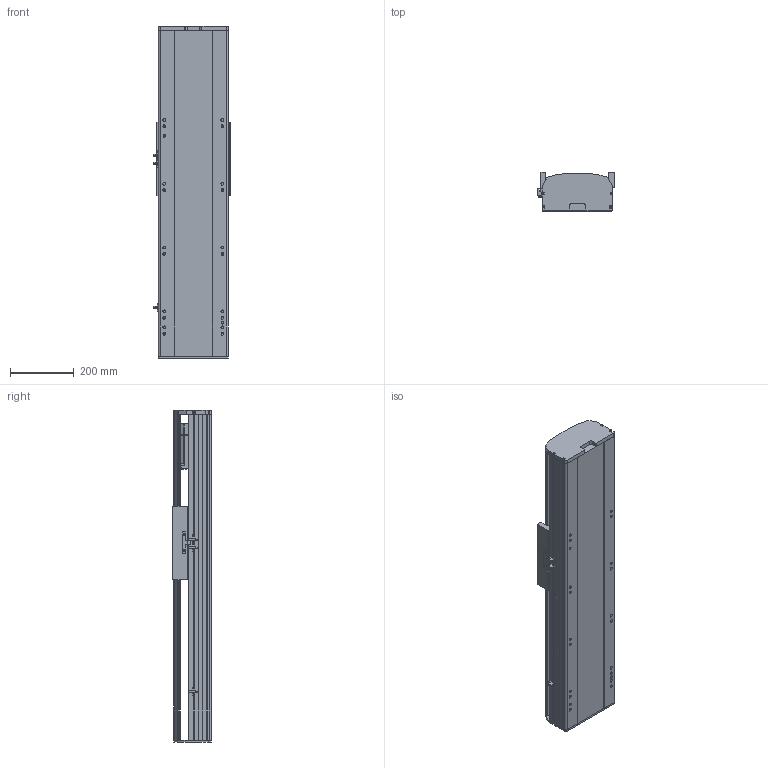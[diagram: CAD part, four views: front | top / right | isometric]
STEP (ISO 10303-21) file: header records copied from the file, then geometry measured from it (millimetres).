
FILE_DESCRIPTION (( 'STEP AP214' ), '1' );
FILE_NAME ('RTH22-XX-450-B-M75-C4.STEP', '2025-10-24T10:28:20', ( 'Microsoft' ), ( 'Microsoft' ), 'SwSTEP 2.0', 'SolidWorks 2018', '' );
FILE_SCHEMA (( 'AUTOMOTIVE_DESIGN' ));
Length unit declared in the file: millimetre
Products named in the file (9): RTH22-XX-450-B-M75-C4; N_RTH22-B-008萇儂啣^RTH22-XX-XX-B-M75-C4; N_RTH22-B-007奻裔^RTH22-XX-XX-B-M75-C4; N_RTH22-GY-001耜裔^RTH22-XX-XX-B-M75-C4; N_OMRON EE-SX672 传感器^RTH22-XX-XX-B-M75-C4; N_RTH22-B-011菁釱^RTH22-XX-XX-B-M75-C4; N_RTH22-GY-013外置感应片^RTH22-XX-XX-B-M75-C4; N_750W萇儂^RTH22-XX-XX-B-M75-C4; N_RTH22-E-004-SFS25賑釱^RTH22-XX-XX-B-M75-C4
Assembly tree (10 placements, depth 2):
  RTH22-XX-450-B-M75-C4
    N_RTH22-B-011菁釱^RTH22-XX-XX-B-M75-C4
    N_RTH22-GY-001耜裔^RTH22-XX-XX-B-M75-C4
    N_750W萇儂^RTH22-XX-XX-B-M75-C4
    N_RTH22-B-008萇儂啣^RTH22-XX-XX-B-M75-C4
    N_RTH22-B-007奻裔^RTH22-XX-XX-B-M75-C4
    N_OMRON EE-SX672 传感器^RTH22-XX-XX-B-M75-C4  x3
    N_RTH22-GY-013外置感应片^RTH22-XX-XX-B-M75-C4
    N_RTH22-E-004-SFS25賑釱^RTH22-XX-XX-B-M75-C4
Bounding box: 238.5 x 122 x 1040 mm (x, y, z)
Volume: 15054747.5 mm3; surface area: 1578381.3 mm2
Topology: 10 solids, 10 shells, 1497 faces, 4100 edges, 2653 vertices
Faces by surface type: plane 750, cylinder 418, bspline 279, cone 50
Entity records: 36775 total; most frequent: CARTESIAN_POINT 11549, ORIENTED_EDGE 5192, DIRECTION 4834, EDGE_CURVE 2596, VERTEX_POINT 1689, VECTOR 1614, LINE 1614, AXIS2_PLACEMENT_3D 1610
